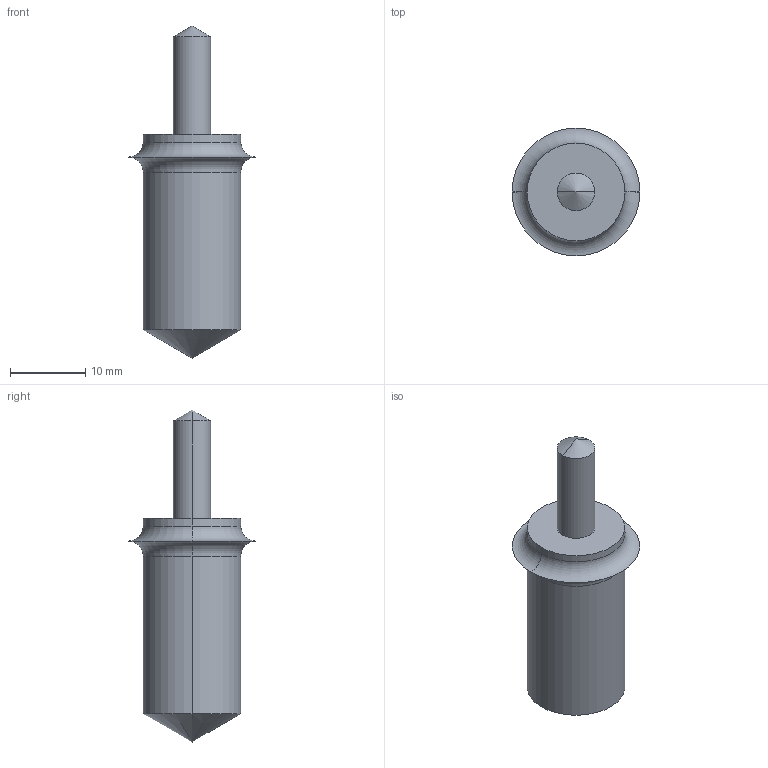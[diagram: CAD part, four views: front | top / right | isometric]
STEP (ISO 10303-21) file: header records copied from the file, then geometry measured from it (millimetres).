
FILE_DESCRIPTION (( 'STEP AP214' ), '1' );
FILE_NAME ('FP13D .STEP', '2016-02-29T23:53:36', ( '' ), ( '' ), 'SwSTEP 2.0', 'SolidWorks 2014', '' );
FILE_SCHEMA (( 'AUTOMOTIVE_DESIGN' ));
Length unit declared in the file: millimetre
Products named in the file (1): FP13D 
Bounding box: 17 x 17 x 44.2 mm (x, y, z)
Volume: 3956.7 mm3; surface area: 1677 mm2
Topology: 1 solids, 1 shells, 15 faces, 32 edges, 16 vertices
Faces by surface type: cylinder 6, cone 4, torus 4, plane 1
Entity records: 410 total; most frequent: DIRECTION 78, CARTESIAN_POINT 60, ORIENTED_EDGE 56, AXIS2_PLACEMENT_3D 34, EDGE_CURVE 28, CIRCLE 18, VERTEX_POINT 16, EDGE_LOOP 16
